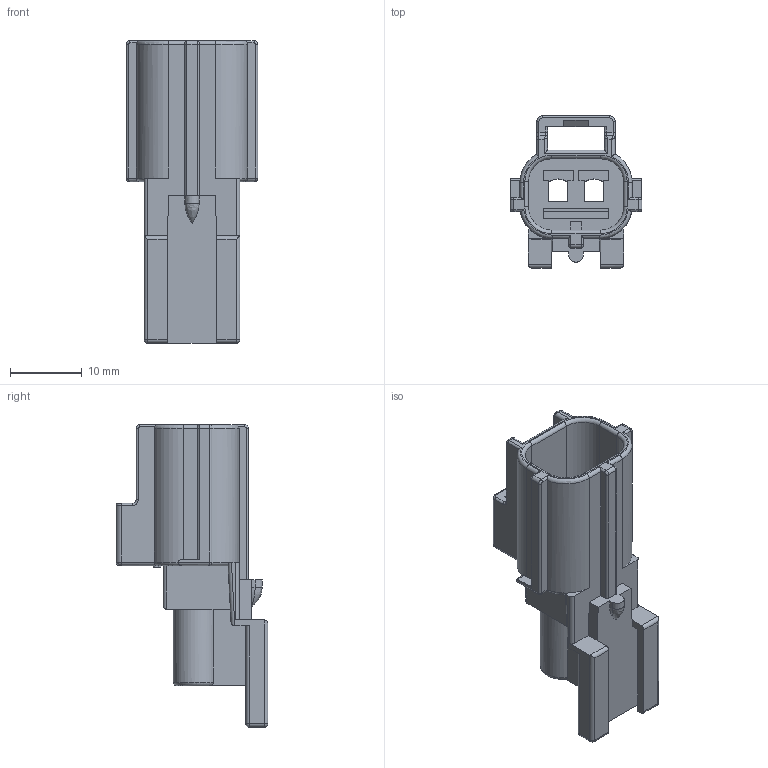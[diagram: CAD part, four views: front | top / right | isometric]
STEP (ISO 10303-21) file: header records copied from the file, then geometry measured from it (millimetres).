
FILE_DESCRIPTION((''),'2;1');
FILE_NAME('C-0184164-01-3','2007-09-03T',('workeradm'),('Tyco Electronics Corporation'),'PRO/ENGINEER BY PARAMETRIC TECHNOLOGY CORPORATION, 2005450','PRO/ENGINEER BY PARAMETRIC TECHNOLOGY CORPORATION, 2005450','');
FILE_SCHEMA(('CONFIG_CONTROL_DESIGN', 'GEOMETRIC_VALIDATION_PROPERTIES_MIM'));
Length unit declared in the file: millimetre
Products named in the file (1): C-0184164-01-3
Bounding box: 18.4 x 21.25 x 42.3 mm (x, y, z)
Volume: 2830.4 mm3; surface area: 4908 mm2
Topology: 1 solids, 1 shells, 293 faces, 759 edges, 470 vertices
Faces by surface type: plane 155, cylinder 92, torus 22, bspline 18, sphere 4, extrusion 2
Entity records: 9691 total; most frequent: CARTESIAN_POINT 2493, ORIENTED_EDGE 1512, DIRECTION 1418, EDGE_CURVE 756, VECTOR 518, LINE 516, VERTEX_POINT 470, AXIS2_PLACEMENT_3D 450
